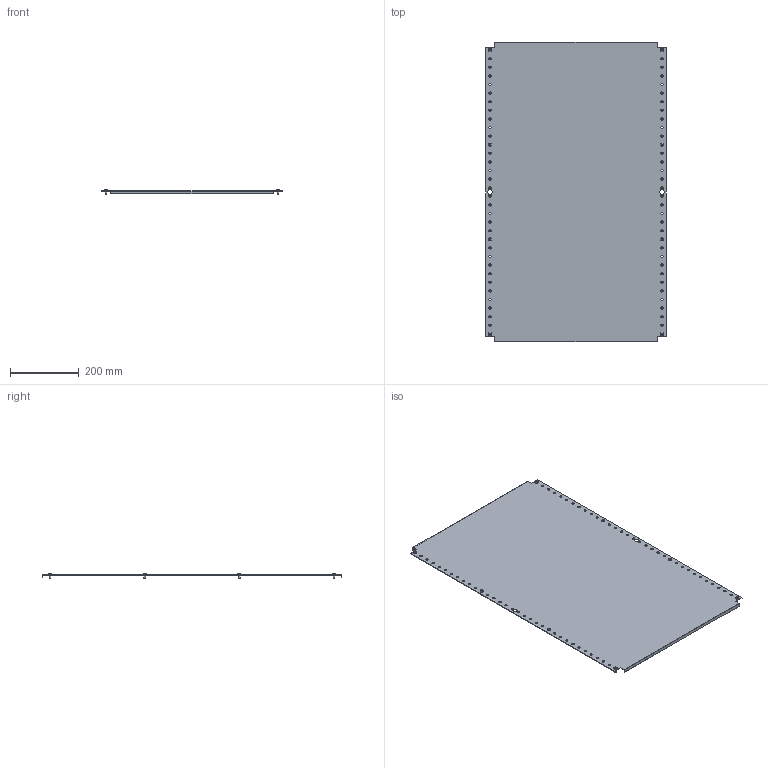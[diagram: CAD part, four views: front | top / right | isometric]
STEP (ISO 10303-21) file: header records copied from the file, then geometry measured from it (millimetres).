
FILE_DESCRIPTION (( 'STEP AP203' ), '1' );
FILE_NAME ('R6MP1060.STEP', '2025-03-28T12:04:14', ( '' ), ( '' ), 'SwSTEP 2.0', 'SolidWorks 2022', '' );
FILE_SCHEMA (( 'CONFIG_CONTROL_DESIGN' ));
Length unit declared in the file: millimetre
Products named in the file (3): RB.3293.00.00.0_-02; R6MP1060; M5x12 DIN 7500 C Torx Zinc_stright
Assembly tree (9 placements, depth 2):
  R6MP1060
    RB.3293.00.00.0_-02
    M5x12 DIN 7500 C Torx Zinc_stright  x8
Bounding box: 525 x 870 x 15.56 mm (x, y, z)
Volume: 831975.3 mm3; surface area: 931778.9 mm2
Topology: 9 solids, 9 shells, 230 faces, 540 edges, 336 vertices
Faces by surface type: plane 94, cylinder 88, torus 16, cone 16, sphere 8, bspline 8
Full cylindrical faces by diameter (mm): 5 x8, 6.5 x68, 9.5 x8
Entity records: 4453 total; most frequent: CARTESIAN_POINT 800, DIRECTION 660, ORIENTED_EDGE 504, EDGE_LOOP 334, AXIS2_PLACEMENT_3D 286, EDGE_CURVE 252, VERTEX_POINT 214, FACE_OUTER_BOUND 192
